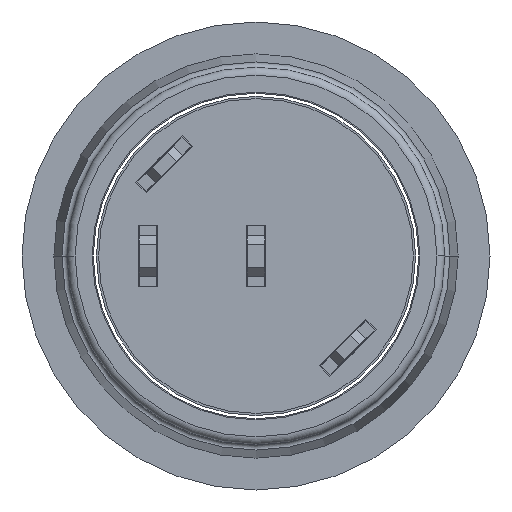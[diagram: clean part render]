
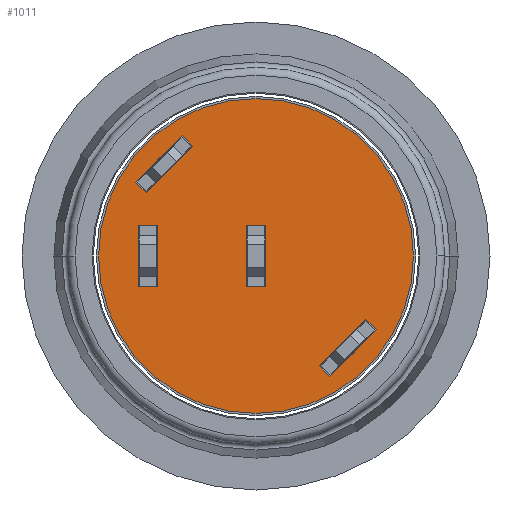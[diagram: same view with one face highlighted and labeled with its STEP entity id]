
A CAD part, front view. The second image highlights one B-rep face of the part: STEP entity #1011.
In plain terms, the highlighted planar face has unit normal (0, -1, 0).
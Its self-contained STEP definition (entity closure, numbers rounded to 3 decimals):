
#818=CARTESIAN_POINT('',(0.,-15.96,0.));
#819=DIRECTION('',(0.,-1.,0.));
#820=DIRECTION('',(-1.,0.,0.));
#821=AXIS2_PLACEMENT_3D('',#818,#819,#820);
#823=CARTESIAN_POINT('',(0.,-15.96,0.));
#824=DIRECTION('',(0.,1.,0.));
#825=DIRECTION('',(-1.,0.,0.));
#826=AXIS2_PLACEMENT_3D('',#823,#824,#825);
#828=DIRECTION('',(-0.707,0.,0.707));
#829=VECTOR('',#828,0.7);
#830=CARTESIAN_POINT('',(5.657,-15.96,-3.465));
#831=LINE('',#830,#829);
#832=DIRECTION('',(-0.707,0.,-0.707));
#833=VECTOR('',#832,3.1);
#834=CARTESIAN_POINT('',(5.162,-15.96,-2.97));
#835=LINE('',#834,#833);
#836=DIRECTION('',(0.707,0.,-0.707));
#837=VECTOR('',#836,0.7);
#838=CARTESIAN_POINT('',(2.97,-15.96,-5.162));
#839=LINE('',#838,#837);
#840=DIRECTION('',(0.707,0.,0.707));
#841=VECTOR('',#840,3.1);
#842=CARTESIAN_POINT('',(3.465,-15.96,-5.657));
#843=LINE('',#842,#841);
#844=DIRECTION('',(-0.707,0.,0.707));
#845=VECTOR('',#844,0.7);
#846=CARTESIAN_POINT('',(-2.97,-15.96,5.162));
#847=LINE('',#846,#845);
#848=DIRECTION('',(-0.707,0.,-0.707));
#849=VECTOR('',#848,3.1);
#850=CARTESIAN_POINT('',(-3.465,-15.96,5.657));
#851=LINE('',#850,#849);
#852=DIRECTION('',(0.707,0.,-0.707));
#853=VECTOR('',#852,0.7);
#854=CARTESIAN_POINT('',(-5.657,-15.96,3.465));
#855=LINE('',#854,#853);
#856=DIRECTION('',(0.707,0.,0.707));
#857=VECTOR('',#856,3.1);
#858=CARTESIAN_POINT('',(-5.162,-15.96,2.97));
#859=LINE('',#858,#857);
#860=DIRECTION('',(0.,0.,1.));
#861=VECTOR('',#860,2.9);
#862=CARTESIAN_POINT('',(0.45,-15.96,-1.45));
#863=LINE('',#862,#861);
#864=DIRECTION('',(-1.,0.,0.));
#865=VECTOR('',#864,0.9);
#866=CARTESIAN_POINT('',(0.45,-15.96,1.45));
#867=LINE('',#866,#865);
#868=DIRECTION('',(0.,0.,-1.));
#869=VECTOR('',#868,2.9);
#870=CARTESIAN_POINT('',(-0.45,-15.96,1.45));
#871=LINE('',#870,#869);
#872=DIRECTION('',(1.,0.,0.));
#873=VECTOR('',#872,0.9);
#874=CARTESIAN_POINT('',(-0.45,-15.96,-1.45));
#875=LINE('',#874,#873);
#876=DIRECTION('',(0.,0.,1.));
#877=VECTOR('',#876,2.9);
#878=CARTESIAN_POINT('',(-4.63,-15.96,-1.45));
#879=LINE('',#878,#877);
#880=DIRECTION('',(-1.,0.,0.));
#881=VECTOR('',#880,0.9);
#882=CARTESIAN_POINT('',(-4.63,-15.96,1.45));
#883=LINE('',#882,#881);
#884=DIRECTION('',(0.,0.,-1.));
#885=VECTOR('',#884,2.9);
#886=CARTESIAN_POINT('',(-5.53,-15.96,1.45));
#887=LINE('',#886,#885);
#888=DIRECTION('',(1.,0.,0.));
#889=VECTOR('',#888,0.9);
#890=CARTESIAN_POINT('',(-5.53,-15.96,-1.45));
#891=LINE('',#890,#889);
#893=CARTESIAN_POINT('',(-7.4,-15.96,0.));
#895=VERTEX_POINT('',#893);
#897=CARTESIAN_POINT('',(7.4,-15.96,0.));
#899=VERTEX_POINT('',#897);
#900=CARTESIAN_POINT('',(5.162,-15.96,-2.97));
#901=CARTESIAN_POINT('',(5.657,-15.96,-3.465));
#902=VERTEX_POINT('',#900);
#903=VERTEX_POINT('',#901);
#904=CARTESIAN_POINT('',(2.97,-15.96,-5.162));
#905=CARTESIAN_POINT('',(3.465,-15.96,-5.657));
#906=VERTEX_POINT('',#904);
#907=VERTEX_POINT('',#905);
#908=CARTESIAN_POINT('',(-2.97,-15.96,5.162));
#909=CARTESIAN_POINT('',(-3.465,-15.96,5.657));
#910=VERTEX_POINT('',#908);
#911=VERTEX_POINT('',#909);
#912=CARTESIAN_POINT('',(-5.162,-15.96,2.97));
#913=CARTESIAN_POINT('',(-5.657,-15.96,3.465));
#914=VERTEX_POINT('',#912);
#915=VERTEX_POINT('',#913);
#916=CARTESIAN_POINT('',(0.45,-15.96,1.45));
#917=CARTESIAN_POINT('',(0.45,-15.96,-1.45));
#918=VERTEX_POINT('',#916);
#919=VERTEX_POINT('',#917);
#920=CARTESIAN_POINT('',(-0.45,-15.96,-1.45));
#921=VERTEX_POINT('',#920);
#922=CARTESIAN_POINT('',(-0.45,-15.96,1.45));
#923=VERTEX_POINT('',#922);
#924=CARTESIAN_POINT('',(-4.63,-15.96,1.45));
#925=CARTESIAN_POINT('',(-4.63,-15.96,-1.45));
#926=VERTEX_POINT('',#924);
#927=VERTEX_POINT('',#925);
#928=CARTESIAN_POINT('',(-5.53,-15.96,-1.45));
#929=VERTEX_POINT('',#928);
#930=CARTESIAN_POINT('',(-5.53,-15.96,1.45));
#931=VERTEX_POINT('',#930);
#962=CARTESIAN_POINT('',(0.,-15.96,0.));
#963=DIRECTION('',(0.,1.,0.));
#964=DIRECTION('',(1.,0.,0.));
#965=AXIS2_PLACEMENT_3D('',#962,#963,#964);
#966=PLANE('',#965);
#967=ORIENTED_EDGE('',*,*,#954,.F.);
#968=ORIENTED_EDGE('',*,*,#943,.T.);
#969=EDGE_LOOP('',(#967,#968));
#970=FACE_OUTER_BOUND('',#969,.F.);
#972=ORIENTED_EDGE('',*,*,#971,.T.);
#974=ORIENTED_EDGE('',*,*,#973,.T.);
#976=ORIENTED_EDGE('',*,*,#975,.T.);
#978=ORIENTED_EDGE('',*,*,#977,.T.);
#979=EDGE_LOOP('',(#972,#974,#976,#978));
#980=FACE_BOUND('',#979,.F.);
#982=ORIENTED_EDGE('',*,*,#981,.T.);
#984=ORIENTED_EDGE('',*,*,#983,.T.);
#986=ORIENTED_EDGE('',*,*,#985,.T.);
#988=ORIENTED_EDGE('',*,*,#987,.T.);
#989=EDGE_LOOP('',(#982,#984,#986,#988));
#990=FACE_BOUND('',#989,.F.);
#992=ORIENTED_EDGE('',*,*,#991,.T.);
#994=ORIENTED_EDGE('',*,*,#993,.T.);
#996=ORIENTED_EDGE('',*,*,#995,.T.);
#998=ORIENTED_EDGE('',*,*,#997,.T.);
#999=EDGE_LOOP('',(#992,#994,#996,#998));
#1000=FACE_BOUND('',#999,.F.);
#1002=ORIENTED_EDGE('',*,*,#1001,.T.);
#1004=ORIENTED_EDGE('',*,*,#1003,.T.);
#1006=ORIENTED_EDGE('',*,*,#1005,.T.);
#1008=ORIENTED_EDGE('',*,*,#1007,.T.);
#1009=EDGE_LOOP('',(#1002,#1004,#1006,#1008));
#1010=FACE_BOUND('',#1009,.F.);
#1011=ADVANCED_FACE('',(#970,#980,#990,#1000,#1010),#966,.F.);
#822=CIRCLE('',#821,7.4);
#827=CIRCLE('',#826,7.4);
#943=EDGE_CURVE('',#895,#899,#827,.T.);
#954=EDGE_CURVE('',#895,#899,#822,.T.);
#971=EDGE_CURVE('',#903,#902,#831,.T.);
#973=EDGE_CURVE('',#902,#906,#835,.T.);
#975=EDGE_CURVE('',#906,#907,#839,.T.);
#977=EDGE_CURVE('',#907,#903,#843,.T.);
#981=EDGE_CURVE('',#910,#911,#847,.T.);
#983=EDGE_CURVE('',#911,#915,#851,.T.);
#985=EDGE_CURVE('',#915,#914,#855,.T.);
#987=EDGE_CURVE('',#914,#910,#859,.T.);
#991=EDGE_CURVE('',#919,#918,#863,.T.);
#993=EDGE_CURVE('',#918,#923,#867,.T.);
#995=EDGE_CURVE('',#923,#921,#871,.T.);
#997=EDGE_CURVE('',#921,#919,#875,.T.);
#1001=EDGE_CURVE('',#927,#926,#879,.T.);
#1003=EDGE_CURVE('',#926,#931,#883,.T.);
#1005=EDGE_CURVE('',#931,#929,#887,.T.);
#1007=EDGE_CURVE('',#929,#927,#891,.T.);
